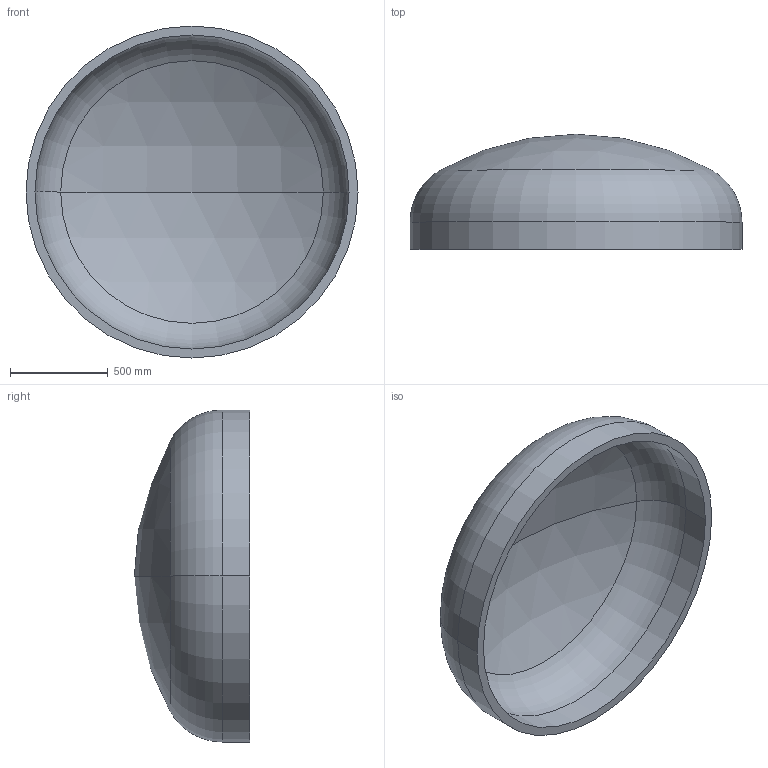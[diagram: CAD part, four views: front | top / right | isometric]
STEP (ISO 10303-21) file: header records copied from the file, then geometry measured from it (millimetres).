
FILE_DESCRIPTION (( 'STEP AP203' ), '1' );
FILE_NAME ('DIN 28013 Korbbogenform_-_Boden DIN 28013 - 1700 x 140 - I - s=46.step', '2016-07-01T11:51:34', ( '' ), ( '' ), 'SwSTEP 2.0', 'SolidWorks 2013', '' );
FILE_SCHEMA (( 'CONFIG_CONTROL_DESIGN' ));
Length unit declared in the file: millimetre
Products named in the file (1): DIN 28013 Korbbogenform_-_Boden DIN 28013 - 1700 x 140 - I - s=46
Bounding box: 1700 x 589.93 x 1700 mm (x, y, z)
Volume: 172844692.8 mm3; surface area: 7758441.1 mm2
Topology: 1 solids, 1 shells, 13 faces, 24 edges, 14 vertices
Faces by surface type: torus 4, cylinder 4, sphere 4, plane 1
Entity records: 407 total; most frequent: DIRECTION 72, CARTESIAN_POINT 52, ORIENTED_EDGE 48, AXIS2_PLACEMENT_3D 34, EDGE_CURVE 24, CIRCLE 20, VERTEX_POINT 14, EDGE_LOOP 14
